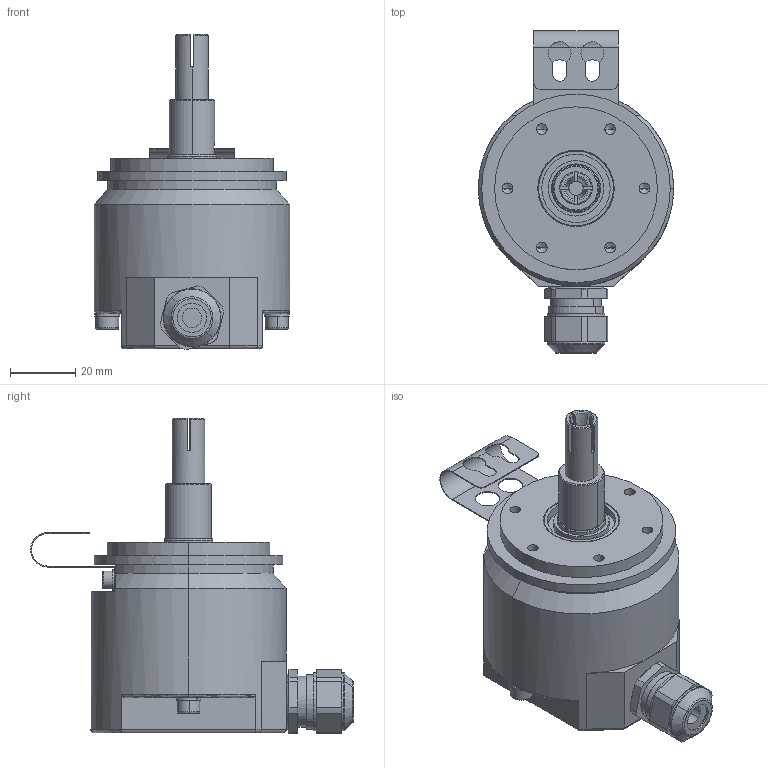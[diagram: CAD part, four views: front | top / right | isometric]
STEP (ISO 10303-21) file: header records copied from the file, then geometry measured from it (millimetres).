
FILE_DESCRIPTION (( 'STEP AP203' ), '1' );
FILE_NAME ('67S-1111X-1024.STEP', '2022-04-04T09:33:26', ( '' ), ( '' ), 'SwSTEP 2.0', 'SolidWorks 2021', '' );
FILE_SCHEMA (( 'CONFIG_CONTROL_DESIGN' ));
Length unit declared in the file: millimetre
Products named in the file (1): 67S-1111X-1024
Bounding box: 60 x 99.05 x 96.77 mm (x, y, z)
Volume: 159819.7 mm3; surface area: 29060.4 mm2
Topology: 10 solids, 13 shells, 590 faces, 1433 edges, 879 vertices
Faces by surface type: cylinder 200, cone 179, plane 168, torus 42, sphere 1
Entity records: 17675 total; most frequent: CARTESIAN_POINT 3412, DIRECTION 3244, ORIENTED_EDGE 2818, EDGE_CURVE 1409, AXIS2_PLACEMENT_3D 1315, VERTEX_POINT 879, CIRCLE 724, EDGE_LOOP 646
